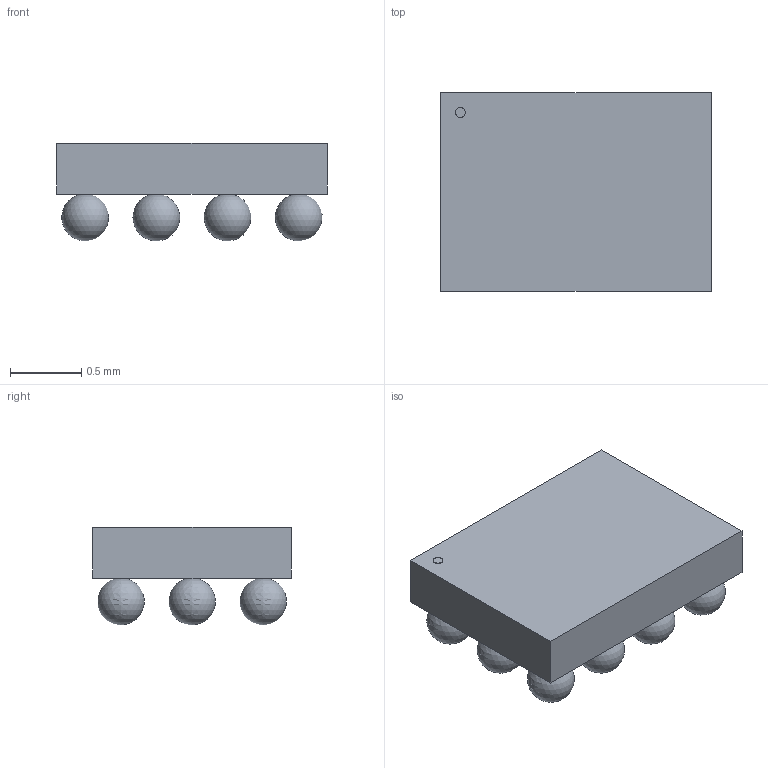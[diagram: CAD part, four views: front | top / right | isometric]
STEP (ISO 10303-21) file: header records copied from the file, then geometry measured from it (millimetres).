
FILE_DESCRIPTION(('STEP AP214'),'1');
FILE_NAME('CSP12_1P9X1P4_USC','2026-05-13T01:54:55',(''),(''),'','','');
FILE_SCHEMA(('AUTOMOTIVE_DESIGN'));
Length unit declared in the file: millimetre
Products named in the file (1): product
Bounding box: 1.9 x 1.4 x 0.69 mm (x, y, z)
Volume: 1.2 mm3; surface area: 11.8 mm2
Topology: 14 solids, 14 shells, 21 faces, 51 edges, 34 vertices
Faces by surface type: sphere 12, plane 8, cylinder 1
Full cylindrical faces by diameter (mm): 0.07 x1
Entity records: 481 total; most frequent: DIRECTION 62, CARTESIAN_POINT 35, ORIENTED_EDGE 28, AXIS2_PLACEMENT_3D 25, STYLED_ITEM 21, ADVANCED_FACE 21, PRESENTATION_STYLE_ASSIGNMENT 17, SURFACE_STYLE_USAGE 17
